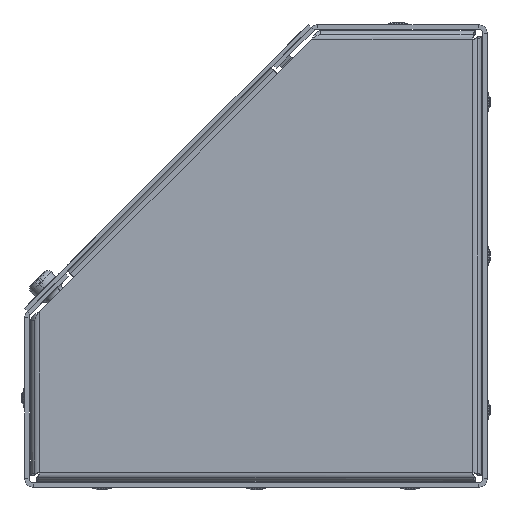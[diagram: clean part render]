
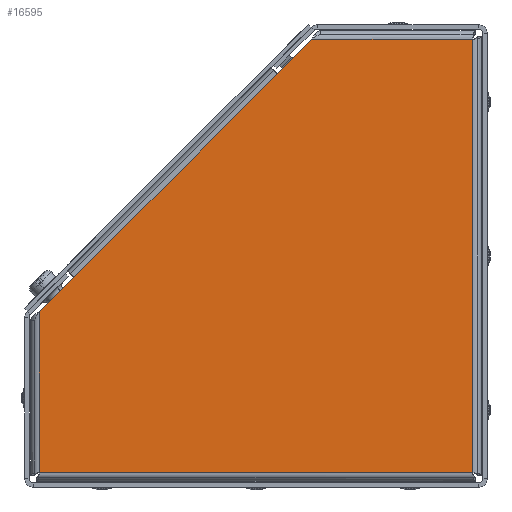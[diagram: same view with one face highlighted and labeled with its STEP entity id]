
A CAD part, left-side view. The second image highlights one B-rep face of the part: STEP entity #16595.
In plain terms, the highlighted planar face has unit normal (-1, 0, 0) as drawn and (1, 0, 0) by its records, which use the part's own axes.
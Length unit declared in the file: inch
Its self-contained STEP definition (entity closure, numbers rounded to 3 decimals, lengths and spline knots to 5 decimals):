
#33 = CARTESIAN_POINT ( 'NONE',  ( 0., 0., 0. ) ) ;
#104 = DIRECTION ( 'NONE',  ( 0., 0., -1. ) ) ;
#582 = ORIENTED_EDGE ( 'NONE', *, *, #1980, .T. ) ;
#617 = VERTEX_POINT ( 'NONE', #5196 ) ;
#896 = EDGE_CURVE ( 'NONE', #15751, #7852, #5547, .T. ) ;
#897 = EDGE_CURVE ( 'NONE', #14531, #617, #8780, .T. ) ;
#1421 = ORIENTED_EDGE ( 'NONE', *, *, #896, .T. ) ;
#1431 = VECTOR ( 'NONE', #15987, 39.37008 ) ;
#1980 = EDGE_CURVE ( 'NONE', #7852, #11066, #16120, .T. ) ;
#2121 = CARTESIAN_POINT ( 'NONE',  ( 0., 0., -5.62 ) ) ;
#2564 = DIRECTION ( 'NONE',  ( 0., 0., -1. ) ) ;
#2669 = VERTEX_POINT ( 'NONE', #16010 ) ;
#3520 = CARTESIAN_POINT ( 'NONE',  ( 0., 2.08801, 0. ) ) ;
#4379 = VECTOR ( 'NONE', #17054, 39.37008 ) ;
#4920 = DIRECTION ( 'NONE',  ( 0., 1., 0. ) ) ;
#5196 = CARTESIAN_POINT ( 'NONE',  ( 0., 0., 0. ) ) ;
#5262 = CARTESIAN_POINT ( 'NONE',  ( 0., 5.62, -3.53199 ) ) ;
#5521 = LINE ( 'NONE', #8048, #16130 ) ;
#5547 = LINE ( 'NONE', #2121, #12897 ) ;
#6306 = CARTESIAN_POINT ( 'NONE',  ( 0., 5.17275, -3.08474 ) ) ;
#7130 = DIRECTION ( 'NONE',  ( 0., 0., 1. ) ) ;
#7231 = VERTEX_POINT ( 'NONE', #17306 ) ;
#7415 = EDGE_CURVE ( 'NONE', #11066, #2669, #9060, .T. ) ;
#7852 = VERTEX_POINT ( 'NONE', #8853 ) ;
#8048 = CARTESIAN_POINT ( 'NONE',  ( 0., 0., 0. ) ) ;
#8388 = DIRECTION ( 'NONE',  ( 1., 0., 0. ) ) ;
#8749 = VECTOR ( 'NONE', #7130, 39.37008 ) ;
#8780 = LINE ( 'NONE', #3520, #1431 ) ;
#8853 = CARTESIAN_POINT ( 'NONE',  ( 0., 5.62, -5.62 ) ) ;
#9037 = DIRECTION ( 'NONE',  ( 0., -0.707, 0.707 ) ) ;
#9060 = LINE ( 'NONE', #5262, #12748 ) ;
#10668 = VECTOR ( 'NONE', #9037, 39.37008 ) ;
#10844 = ORIENTED_EDGE ( 'NONE', *, *, #12076, .T. ) ;
#10982 = ORIENTED_EDGE ( 'NONE', *, *, #10989, .T. ) ;
#10989 = EDGE_CURVE ( 'NONE', #617, #15751, #5521, .T. ) ;
#11066 = VERTEX_POINT ( 'NONE', #16591 ) ;
#11472 = CARTESIAN_POINT ( 'NONE',  ( 0., 5.62, -3.53199 ) ) ;
#11716 = LINE ( 'NONE', #11472, #4379 ) ;
#12076 = EDGE_CURVE ( 'NONE', #2669, #7231, #15205, .T. ) ;
#12748 = VECTOR ( 'NONE', #13539, 39.37008 ) ;
#12897 = VECTOR ( 'NONE', #4920, 39.37008 ) ;
#12943 = ORIENTED_EDGE ( 'NONE', *, *, #15408, .T. ) ;
#13065 = FACE_OUTER_BOUND ( 'NONE', #15027, .T. ) ;
#13539 = DIRECTION ( 'NONE',  ( 0., -0.707, 0.707 ) ) ;
#13883 = PLANE ( 'NONE',  #15457 ) ;
#14336 = CARTESIAN_POINT ( 'NONE',  ( 0., 5.62, -5.62 ) ) ;
#14531 = VERTEX_POINT ( 'NONE', #15996 ) ;
#15027 = EDGE_LOOP ( 'NONE', ( #15722, #10982, #1421, #582, #16118, #10844, #12943 ) ) ;
#15205 = LINE ( 'NONE', #6306, #10668 ) ;
#15408 = EDGE_CURVE ( 'NONE', #7231, #14531, #11716, .T. ) ;
#15457 = AXIS2_PLACEMENT_3D ( 'NONE', #33, #8388, #104 ) ;
#15722 = ORIENTED_EDGE ( 'NONE', *, *, #897, .T. ) ;
#15751 = VERTEX_POINT ( 'NONE', #16368 ) ;
#15987 = DIRECTION ( 'NONE',  ( 0., -1., 0. ) ) ;
#15996 = CARTESIAN_POINT ( 'NONE',  ( 0., 2.08801, 0. ) ) ;
#16010 = CARTESIAN_POINT ( 'NONE',  ( 0., 5.17275, -3.08474 ) ) ;
#16118 = ORIENTED_EDGE ( 'NONE', *, *, #7415, .T. ) ;
#16120 = LINE ( 'NONE', #14336, #8749 ) ;
#16130 = VECTOR ( 'NONE', #2564, 39.37008 ) ;
#16368 = CARTESIAN_POINT ( 'NONE',  ( 0., 0., -5.62 ) ) ;
#16591 = CARTESIAN_POINT ( 'NONE',  ( 0., 5.62, -3.53199 ) ) ;
#16595 = ADVANCED_FACE ( 'NONE', ( #13065 ), #13883, .T. ) ;
#17054 = DIRECTION ( 'NONE',  ( 0., -0.707, 0.707 ) ) ;
#17306 = CARTESIAN_POINT ( 'NONE',  ( 0., 2.53526, -0.44725 ) ) ;
